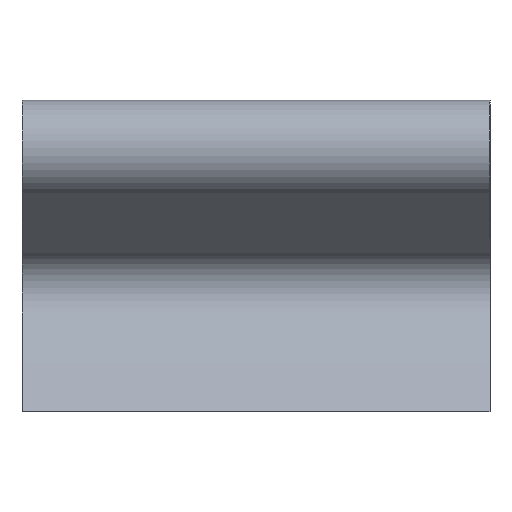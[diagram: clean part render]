
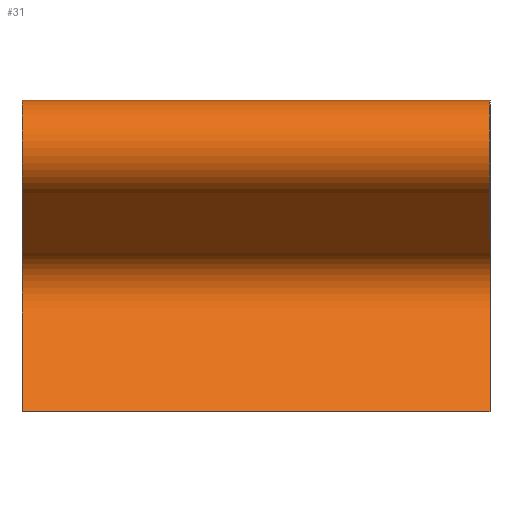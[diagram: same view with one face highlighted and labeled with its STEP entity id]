
A CAD part, left-side view. The second image highlights one B-rep face of the part: STEP entity #31.
In plain terms, the highlighted free-form (B-spline) face has degree [2, 1] with [27, 2] control points.
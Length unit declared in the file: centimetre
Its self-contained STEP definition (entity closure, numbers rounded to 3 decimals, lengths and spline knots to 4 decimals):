
#31=ADVANCED_FACE($,(#59),#286,.T.);
#59=FACE_OUTER_BOUND($,#87,.T.);
#87=EDGE_LOOP($,(#136,#137,#138,#139));
#136=ORIENTED_EDGE($,*,*,#225,.T.);
#137=ORIENTED_EDGE($,*,*,#222,.T.);
#138=ORIENTED_EDGE($,*,*,#217,.F.);
#139=ORIENTED_EDGE($,*,*,#219,.F.);
#217=EDGE_CURVE($,#260,#261,#329,.T.);
#219=EDGE_CURVE($,#262,#260,#316,.T.);
#222=EDGE_CURVE($,#265,#261,#318,.T.);
#225=EDGE_CURVE($,#262,#265,#333,.T.);
#260=VERTEX_POINT($,#782);
#261=VERTEX_POINT($,#783);
#262=VERTEX_POINT($,#784);
#265=VERTEX_POINT($,#787);
#286=(
BOUNDED_SURFACE()
B_SPLINE_SURFACE(2,1,((#671,#672),(#673,#674),(#675,#676),(#677,#678),(#679,
#680),(#681,#682),(#683,#684),(#685,#686),(#687,#688),(#689,#690),(#691,
#692),(#693,#694),(#695,#696),(#697,#698),(#699,#700),(#701,#702),(#703,
#704),(#705,#706),(#707,#708),(#709,#710),(#711,#712),(#713,#714),(#715,
#716),(#717,#718),(#719,#720),(#721,#722),(#723,#724)),.UNSPECIFIED.,.F.,
.F.,.F.)
B_SPLINE_SURFACE_WITH_KNOTS((3,2,2,2,2,2,2,2,2,2,2,2,2,3),(2,2),(-405.9873,
-389.7645,-384.8688,-379.9732,-365.23,
-356.7216,-348.2131,-261.2131,-252.7046,
-244.1961,-229.453,-224.5574,-219.6617,
-203.4389),(0.,60.),.UNSPECIFIED.)
GEOMETRIC_REPRESENTATION_ITEM()
RATIONAL_B_SPLINE_SURFACE(((1.,1.),(1.,1.),(1.,1.),(0.903,0.903),
(1.,1.),(0.903,0.903),(1.,1.),(1.,1.),(1.,1.),(0.793,
0.793),(1.,1.),(0.793,0.793),(1.,1.),
(1.,1.),(1.,1.),(0.793,0.793),(1.,1.),(0.793,
0.793),(1.,1.),(1.,1.),(1.,1.),(0.903,0.903),
(1.,1.),(0.903,0.903),(1.,1.),(1.,1.),(1.,1.)))
REPRESENTATION_ITEM($)
SURFACE()
);
#316=(
BOUNDED_CURVE()
B_SPLINE_CURVE(2,(#552,#553,#554,#555,#556,#557,#558,#559,#560,#561,#562,
#563,#564,#565,#566,#567,#568,#569,#570,#571,#572,#573,#574,#575,#576,#577,
#578),.UNSPECIFIED.,.F.,.F.)
B_SPLINE_CURVE_WITH_KNOTS((3,2,2,2,2,2,2,2,2,2,2,2,2,3),(203.4389,
219.6617,224.5574,229.453,244.1961,252.7046,
261.2131,348.2131,356.7216,365.23,379.9732,
384.8688,389.7645,405.9873),.UNSPECIFIED.)
CURVE()
GEOMETRIC_REPRESENTATION_ITEM()
RATIONAL_B_SPLINE_CURVE((1.,1.,1.,0.903,1.,0.903,
1.,1.,1.,0.793,1.,0.793,1.,1.,1.,0.793,
1.,0.793,1.,1.,1.,0.903,1.,0.903,1.,
1.,1.))
REPRESENTATION_ITEM($)
);
#318=(
BOUNDED_CURVE()
B_SPLINE_CURVE(2,(#608,#609,#610,#611,#612,#613,#614,#615,#616,#617,#618,
#619,#620,#621,#622,#623,#624,#625,#626,#627,#628,#629,#630,#631,#632,#633,
#634),.UNSPECIFIED.,.F.,.F.)
B_SPLINE_CURVE_WITH_KNOTS((3,2,2,2,2,2,2,2,2,2,2,2,2,3),(203.4389,
219.6617,224.5574,229.453,244.1961,252.7046,
261.2131,348.2131,356.7216,365.23,379.9732,
384.8688,389.7645,405.9873),.UNSPECIFIED.)
CURVE()
GEOMETRIC_REPRESENTATION_ITEM()
RATIONAL_B_SPLINE_CURVE((1.,1.,1.,0.903,1.,0.903,
1.,1.,1.,0.793,1.,0.793,1.,1.,1.,0.793,
1.,0.793,1.,1.,1.,0.903,1.,0.903,1.,
1.,1.))
REPRESENTATION_ITEM($)
);
#329=B_SPLINE_CURVE_WITH_KNOTS($,1,(#548,#549),.UNSPECIFIED.,.F.,.F.,(2,
2),(0.,60.),.UNSPECIFIED.);
#333=B_SPLINE_CURVE_WITH_KNOTS($,1,(#664,#665),.UNSPECIFIED.,.F.,.F.,(2,
2),(0.,60.),.UNSPECIFIED.);
#548=CARTESIAN_POINT($,(-117.5,0.,0.));
#549=CARTESIAN_POINT($,(-117.5,60.,0.));
#552=CARTESIAN_POINT($,(-30.5,0.,0.));
#553=CARTESIAN_POINT($,(-35.9276,0.,6.028));
#554=CARTESIAN_POINT($,(-41.3552,0.,12.0559));
#555=CARTESIAN_POINT($,(-43.1106,0.,14.0055));
#556=CARTESIAN_POINT($,(-42.7002,0.,16.5965));
#557=CARTESIAN_POINT($,(-42.2898,0.,19.1876));
#558=CARTESIAN_POINT($,(-40.0179,0.,20.4993));
#559=CARTESIAN_POINT($,(-33.634,0.,24.1851));
#560=CARTESIAN_POINT($,(-27.25,0.,27.8708));
#561=CARTESIAN_POINT($,(-22.9306,0.,30.3646));
#562=CARTESIAN_POINT($,(-24.2215,0.,35.1823));
#563=CARTESIAN_POINT($,(-25.5124,0.,40.));
#564=CARTESIAN_POINT($,(-30.5,0.,40.));
#565=CARTESIAN_POINT($,(-74.,0.,40.));
#566=CARTESIAN_POINT($,(-117.5,0.,40.));
#567=CARTESIAN_POINT($,(-122.4876,0.,40.));
#568=CARTESIAN_POINT($,(-123.7785,0.,35.1823));
#569=CARTESIAN_POINT($,(-125.0694,0.,30.3646));
#570=CARTESIAN_POINT($,(-120.75,0.,27.8708));
#571=CARTESIAN_POINT($,(-114.366,0.,24.1851));
#572=CARTESIAN_POINT($,(-107.9821,0.,20.4993));
#573=CARTESIAN_POINT($,(-105.7102,0.,19.1876));
#574=CARTESIAN_POINT($,(-105.2998,0.,16.5965));
#575=CARTESIAN_POINT($,(-104.8894,0.,14.0055));
#576=CARTESIAN_POINT($,(-106.6448,0.,12.0559));
#577=CARTESIAN_POINT($,(-112.0724,0.,6.028));
#578=CARTESIAN_POINT($,(-117.5,0.,0.));
#608=CARTESIAN_POINT($,(-30.5,60.,0.));
#609=CARTESIAN_POINT($,(-35.9276,60.,6.028));
#610=CARTESIAN_POINT($,(-41.3552,60.,12.0559));
#611=CARTESIAN_POINT($,(-43.1106,60.,14.0055));
#612=CARTESIAN_POINT($,(-42.7002,60.,16.5965));
#613=CARTESIAN_POINT($,(-42.2898,60.,19.1876));
#614=CARTESIAN_POINT($,(-40.0179,60.,20.4993));
#615=CARTESIAN_POINT($,(-33.634,60.,24.1851));
#616=CARTESIAN_POINT($,(-27.25,60.,27.8708));
#617=CARTESIAN_POINT($,(-22.9306,60.,30.3646));
#618=CARTESIAN_POINT($,(-24.2215,60.,35.1823));
#619=CARTESIAN_POINT($,(-25.5124,60.,40.));
#620=CARTESIAN_POINT($,(-30.5,60.,40.));
#621=CARTESIAN_POINT($,(-74.,60.,40.));
#622=CARTESIAN_POINT($,(-117.5,60.,40.));
#623=CARTESIAN_POINT($,(-122.4876,60.,40.));
#624=CARTESIAN_POINT($,(-123.7785,60.,35.1823));
#625=CARTESIAN_POINT($,(-125.0694,60.,30.3646));
#626=CARTESIAN_POINT($,(-120.75,60.,27.8708));
#627=CARTESIAN_POINT($,(-114.366,60.,24.1851));
#628=CARTESIAN_POINT($,(-107.9821,60.,20.4993));
#629=CARTESIAN_POINT($,(-105.7102,60.,19.1876));
#630=CARTESIAN_POINT($,(-105.2998,60.,16.5965));
#631=CARTESIAN_POINT($,(-104.8894,60.,14.0055));
#632=CARTESIAN_POINT($,(-106.6448,60.,12.0559));
#633=CARTESIAN_POINT($,(-112.0724,60.,6.028));
#634=CARTESIAN_POINT($,(-117.5,60.,0.));
#664=CARTESIAN_POINT($,(-30.5,0.,0.));
#665=CARTESIAN_POINT($,(-30.5,60.,0.));
#671=CARTESIAN_POINT($,(-117.5,0.,0.));
#672=CARTESIAN_POINT($,(-117.5,60.,0.));
#673=CARTESIAN_POINT($,(-112.0724,0.,6.028));
#674=CARTESIAN_POINT($,(-112.0724,60.,6.028));
#675=CARTESIAN_POINT($,(-106.6448,0.,12.0559));
#676=CARTESIAN_POINT($,(-106.6448,60.,12.0559));
#677=CARTESIAN_POINT($,(-104.8894,0.,14.0055));
#678=CARTESIAN_POINT($,(-104.8894,60.,14.0055));
#679=CARTESIAN_POINT($,(-105.2998,0.,16.5965));
#680=CARTESIAN_POINT($,(-105.2998,60.,16.5965));
#681=CARTESIAN_POINT($,(-105.7102,0.,19.1876));
#682=CARTESIAN_POINT($,(-105.7102,60.,19.1876));
#683=CARTESIAN_POINT($,(-107.9821,0.,20.4993));
#684=CARTESIAN_POINT($,(-107.9821,60.,20.4993));
#685=CARTESIAN_POINT($,(-114.366,0.,24.1851));
#686=CARTESIAN_POINT($,(-114.366,60.,24.1851));
#687=CARTESIAN_POINT($,(-120.75,0.,27.8708));
#688=CARTESIAN_POINT($,(-120.75,60.,27.8708));
#689=CARTESIAN_POINT($,(-125.0694,0.,30.3646));
#690=CARTESIAN_POINT($,(-125.0694,60.,30.3646));
#691=CARTESIAN_POINT($,(-123.7785,0.,35.1823));
#692=CARTESIAN_POINT($,(-123.7785,60.,35.1823));
#693=CARTESIAN_POINT($,(-122.4876,0.,40.));
#694=CARTESIAN_POINT($,(-122.4876,60.,40.));
#695=CARTESIAN_POINT($,(-117.5,0.,40.));
#696=CARTESIAN_POINT($,(-117.5,60.,40.));
#697=CARTESIAN_POINT($,(-74.,0.,40.));
#698=CARTESIAN_POINT($,(-74.,60.,40.));
#699=CARTESIAN_POINT($,(-30.5,0.,40.));
#700=CARTESIAN_POINT($,(-30.5,60.,40.));
#701=CARTESIAN_POINT($,(-25.5124,0.,40.));
#702=CARTESIAN_POINT($,(-25.5124,60.,40.));
#703=CARTESIAN_POINT($,(-24.2215,0.,35.1823));
#704=CARTESIAN_POINT($,(-24.2215,60.,35.1823));
#705=CARTESIAN_POINT($,(-22.9306,0.,30.3646));
#706=CARTESIAN_POINT($,(-22.9306,60.,30.3646));
#707=CARTESIAN_POINT($,(-27.25,0.,27.8708));
#708=CARTESIAN_POINT($,(-27.25,60.,27.8708));
#709=CARTESIAN_POINT($,(-33.634,0.,24.1851));
#710=CARTESIAN_POINT($,(-33.634,60.,24.1851));
#711=CARTESIAN_POINT($,(-40.0179,0.,20.4993));
#712=CARTESIAN_POINT($,(-40.0179,60.,20.4993));
#713=CARTESIAN_POINT($,(-42.2898,0.,19.1876));
#714=CARTESIAN_POINT($,(-42.2898,60.,19.1876));
#715=CARTESIAN_POINT($,(-42.7002,0.,16.5965));
#716=CARTESIAN_POINT($,(-42.7002,60.,16.5965));
#717=CARTESIAN_POINT($,(-43.1106,0.,14.0055));
#718=CARTESIAN_POINT($,(-43.1106,60.,14.0055));
#719=CARTESIAN_POINT($,(-41.3552,0.,12.0559));
#720=CARTESIAN_POINT($,(-41.3552,60.,12.0559));
#721=CARTESIAN_POINT($,(-35.9276,0.,6.028));
#722=CARTESIAN_POINT($,(-35.9276,60.,6.028));
#723=CARTESIAN_POINT($,(-30.5,0.,0.));
#724=CARTESIAN_POINT($,(-30.5,60.,0.));
#782=CARTESIAN_POINT($,(-117.5,0.,0.));
#783=CARTESIAN_POINT($,(-117.5,60.,0.));
#784=CARTESIAN_POINT($,(-30.5,0.,0.));
#787=CARTESIAN_POINT($,(-30.5,60.,0.));
